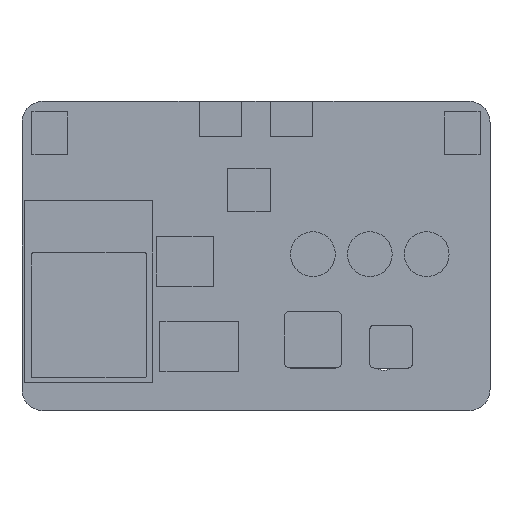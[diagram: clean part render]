
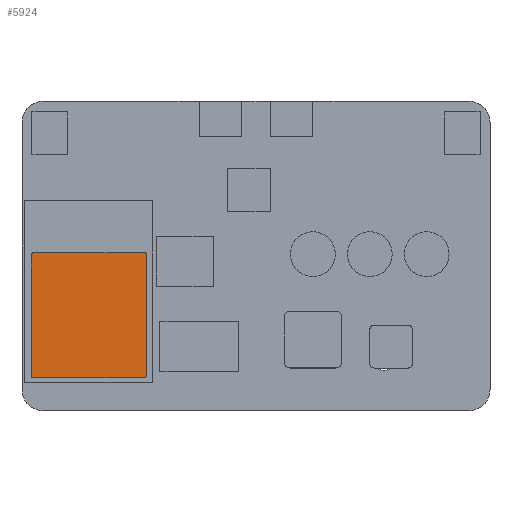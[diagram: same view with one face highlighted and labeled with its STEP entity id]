
A CAD part, top view. The second image highlights one B-rep face of the part: STEP entity #5924.
In plain terms, the highlighted planar face has unit normal (0, 0, 1).
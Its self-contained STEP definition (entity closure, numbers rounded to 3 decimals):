
#5219 = CYLINDRICAL_SURFACE('',#5220,0.3);
#5220 = AXIS2_PLACEMENT_3D('',#5221,#5222,#5223);
#5221 = CARTESIAN_POINT('',(-31.3,-29.1,63.9));
#5222 = DIRECTION('',(0.,0.,1.));
#5223 = DIRECTION('',(-1.,-0.,0.));
#5247 = PLANE('',#5248);
#5248 = AXIS2_PLACEMENT_3D('',#5249,#5250,#5251);
#5249 = CARTESIAN_POINT('',(-31.6,-29.4,63.9));
#5250 = DIRECTION('',(1.,0.,-0.));
#5251 = DIRECTION('',(0.,0.,1.));
#5280 = CYLINDRICAL_SURFACE('',#5281,0.3);
#5281 = AXIS2_PLACEMENT_3D('',#5282,#5283,#5284);
#5282 = CARTESIAN_POINT('',(-31.3,-12.1,63.9));
#5283 = DIRECTION('',(0.,0.,1.));
#5284 = DIRECTION('',(-1.,-0.,0.));
#5308 = PLANE('',#5309);
#5309 = AXIS2_PLACEMENT_3D('',#5310,#5311,#5312);
#5310 = CARTESIAN_POINT('',(-31.6,-11.8,63.9));
#5311 = DIRECTION('',(-0.,1.,0.));
#5312 = DIRECTION('',(0.,0.,1.));
#5337 = CYLINDRICAL_SURFACE('',#5338,0.3);
#5338 = AXIS2_PLACEMENT_3D('',#5339,#5340,#5341);
#5339 = CARTESIAN_POINT('',(-15.7,-12.1,63.9));
#5340 = DIRECTION('',(0.,0.,1.));
#5341 = DIRECTION('',(1.,0.,-0.));
#5365 = PLANE('',#5366);
#5366 = AXIS2_PLACEMENT_3D('',#5367,#5368,#5369);
#5367 = CARTESIAN_POINT('',(-15.4,-29.4,63.9));
#5368 = DIRECTION('',(1.,0.,-0.));
#5369 = DIRECTION('',(0.,0.,1.));
#5398 = CYLINDRICAL_SURFACE('',#5399,0.3);
#5399 = AXIS2_PLACEMENT_3D('',#5400,#5401,#5402);
#5400 = CARTESIAN_POINT('',(-15.7,-29.1,63.9));
#5401 = DIRECTION('',(0.,0.,1.));
#5402 = DIRECTION('',(1.,0.,-0.));
#5424 = PLANE('',#5425);
#5425 = AXIS2_PLACEMENT_3D('',#5426,#5427,#5428);
#5426 = CARTESIAN_POINT('',(-31.6,-29.4,63.9));
#5427 = DIRECTION('',(-0.,1.,0.));
#5428 = DIRECTION('',(0.,0.,1.));
#5521 = VERTEX_POINT('',#5522);
#5522 = CARTESIAN_POINT('',(-31.3,-29.4,66.2));
#5543 = EDGE_CURVE('',#5544,#5521,#5546,.T.);
#5544 = VERTEX_POINT('',#5545);
#5545 = CARTESIAN_POINT('',(-31.6,-29.1,66.2));
#5546 = SURFACE_CURVE('',#5547,(#5552,#5559),.PCURVE_S1.);
#5547 = CIRCLE('',#5548,0.3);
#5548 = AXIS2_PLACEMENT_3D('',#5549,#5550,#5551);
#5549 = CARTESIAN_POINT('',(-31.3,-29.1,66.2));
#5550 = DIRECTION('',(0.,0.,1.));
#5551 = DIRECTION('',(0.,-1.,0.));
#5552 = PCURVE('',#5219,#5553);
#5553 = DEFINITIONAL_REPRESENTATION('',(#5554),#5558);
#5554 = LINE('',#5555,#5556);
#5555 = CARTESIAN_POINT('',(-4.712,2.3));
#5556 = VECTOR('',#5557,1.);
#5557 = DIRECTION('',(1.,0.));
#5558 = ( GEOMETRIC_REPRESENTATION_CONTEXT(2) 
PARAMETRIC_REPRESENTATION_CONTEXT() REPRESENTATION_CONTEXT('2D SPACE',''
  ) );
#5559 = PCURVE('',#5560,#5565);
#5560 = PLANE('',#5561);
#5561 = AXIS2_PLACEMENT_3D('',#5562,#5563,#5564);
#5562 = CARTESIAN_POINT('',(-31.6,-29.4,66.2));
#5563 = DIRECTION('',(0.,0.,1.));
#5564 = DIRECTION('',(1.,0.,-0.));
#5565 = DEFINITIONAL_REPRESENTATION('',(#5566),#5570);
#5566 = CIRCLE('',#5567,0.3);
#5567 = AXIS2_PLACEMENT_2D('',#5568,#5569);
#5568 = CARTESIAN_POINT('',(0.3,0.3));
#5569 = DIRECTION('',(0.,-1.));
#5570 = ( GEOMETRIC_REPRESENTATION_CONTEXT(2) 
PARAMETRIC_REPRESENTATION_CONTEXT() REPRESENTATION_CONTEXT('2D SPACE',''
  ) );
#5598 = EDGE_CURVE('',#5521,#5599,#5601,.T.);
#5599 = VERTEX_POINT('',#5600);
#5600 = CARTESIAN_POINT('',(-15.7,-29.4,66.2));
#5601 = SURFACE_CURVE('',#5602,(#5606,#5613),.PCURVE_S1.);
#5602 = LINE('',#5603,#5604);
#5603 = CARTESIAN_POINT('',(-31.6,-29.4,66.2));
#5604 = VECTOR('',#5605,1.);
#5605 = DIRECTION('',(1.,0.,-0.));
#5606 = PCURVE('',#5424,#5607);
#5607 = DEFINITIONAL_REPRESENTATION('',(#5608),#5612);
#5608 = LINE('',#5609,#5610);
#5609 = CARTESIAN_POINT('',(2.3,0.));
#5610 = VECTOR('',#5611,1.);
#5611 = DIRECTION('',(0.,1.));
#5612 = ( GEOMETRIC_REPRESENTATION_CONTEXT(2) 
PARAMETRIC_REPRESENTATION_CONTEXT() REPRESENTATION_CONTEXT('2D SPACE',''
  ) );
#5613 = PCURVE('',#5560,#5614);
#5614 = DEFINITIONAL_REPRESENTATION('',(#5615),#5619);
#5615 = LINE('',#5616,#5617);
#5616 = CARTESIAN_POINT('',(0.,0.));
#5617 = VECTOR('',#5618,1.);
#5618 = DIRECTION('',(1.,0.));
#5619 = ( GEOMETRIC_REPRESENTATION_CONTEXT(2) 
PARAMETRIC_REPRESENTATION_CONTEXT() REPRESENTATION_CONTEXT('2D SPACE',''
  ) );
#5647 = EDGE_CURVE('',#5648,#5599,#5650,.T.);
#5648 = VERTEX_POINT('',#5649);
#5649 = CARTESIAN_POINT('',(-15.4,-29.1,66.2));
#5650 = SURFACE_CURVE('',#5651,(#5656,#5663),.PCURVE_S1.);
#5651 = CIRCLE('',#5652,0.3);
#5652 = AXIS2_PLACEMENT_3D('',#5653,#5654,#5655);
#5653 = CARTESIAN_POINT('',(-15.7,-29.1,66.2));
#5654 = DIRECTION('',(-0.,-0.,-1.));
#5655 = DIRECTION('',(0.,-1.,0.));
#5656 = PCURVE('',#5398,#5657);
#5657 = DEFINITIONAL_REPRESENTATION('',(#5658),#5662);
#5658 = LINE('',#5659,#5660);
#5659 = CARTESIAN_POINT('',(4.712,2.3));
#5660 = VECTOR('',#5661,1.);
#5661 = DIRECTION('',(-1.,0.));
#5662 = ( GEOMETRIC_REPRESENTATION_CONTEXT(2) 
PARAMETRIC_REPRESENTATION_CONTEXT() REPRESENTATION_CONTEXT('2D SPACE',''
  ) );
#5663 = PCURVE('',#5560,#5664);
#5664 = DEFINITIONAL_REPRESENTATION('',(#5665),#5673);
#5665 = ( BOUNDED_CURVE() B_SPLINE_CURVE(2,(#5666,#5667,#5668,#5669,
#5670,#5671,#5672),.UNSPECIFIED.,.T.,.F.) B_SPLINE_CURVE_WITH_KNOTS((1,2
    ,2,2,2,1),(-2.094,0.,2.094,4.189,
6.283,8.378),.UNSPECIFIED.) CURVE() 
GEOMETRIC_REPRESENTATION_ITEM() RATIONAL_B_SPLINE_CURVE((1.,0.5,1.,0.5,
1.,0.5,1.)) REPRESENTATION_ITEM('') );
#5666 = CARTESIAN_POINT('',(15.9,0.));
#5667 = CARTESIAN_POINT('',(15.38,0.));
#5668 = CARTESIAN_POINT('',(15.64,0.45));
#5669 = CARTESIAN_POINT('',(15.9,0.9));
#5670 = CARTESIAN_POINT('',(16.16,0.45));
#5671 = CARTESIAN_POINT('',(16.42,0.));
#5672 = CARTESIAN_POINT('',(15.9,0.));
#5673 = ( GEOMETRIC_REPRESENTATION_CONTEXT(2) 
PARAMETRIC_REPRESENTATION_CONTEXT() REPRESENTATION_CONTEXT('2D SPACE',''
  ) );
#5699 = EDGE_CURVE('',#5648,#5700,#5702,.T.);
#5700 = VERTEX_POINT('',#5701);
#5701 = CARTESIAN_POINT('',(-15.4,-12.1,66.2));
#5702 = SURFACE_CURVE('',#5703,(#5707,#5714),.PCURVE_S1.);
#5703 = LINE('',#5704,#5705);
#5704 = CARTESIAN_POINT('',(-15.4,-29.4,66.2));
#5705 = VECTOR('',#5706,1.);
#5706 = DIRECTION('',(-0.,1.,0.));
#5707 = PCURVE('',#5365,#5708);
#5708 = DEFINITIONAL_REPRESENTATION('',(#5709),#5713);
#5709 = LINE('',#5710,#5711);
#5710 = CARTESIAN_POINT('',(2.3,0.));
#5711 = VECTOR('',#5712,1.);
#5712 = DIRECTION('',(0.,-1.));
#5713 = ( GEOMETRIC_REPRESENTATION_CONTEXT(2) 
PARAMETRIC_REPRESENTATION_CONTEXT() REPRESENTATION_CONTEXT('2D SPACE',''
  ) );
#5714 = PCURVE('',#5560,#5715);
#5715 = DEFINITIONAL_REPRESENTATION('',(#5716),#5720);
#5716 = LINE('',#5717,#5718);
#5717 = CARTESIAN_POINT('',(16.2,0.));
#5718 = VECTOR('',#5719,1.);
#5719 = DIRECTION('',(0.,1.));
#5720 = ( GEOMETRIC_REPRESENTATION_CONTEXT(2) 
PARAMETRIC_REPRESENTATION_CONTEXT() REPRESENTATION_CONTEXT('2D SPACE',''
  ) );
#5750 = VERTEX_POINT('',#5751);
#5751 = CARTESIAN_POINT('',(-15.7,-11.8,66.2));
#5772 = EDGE_CURVE('',#5700,#5750,#5773,.T.);
#5773 = SURFACE_CURVE('',#5774,(#5779,#5786),.PCURVE_S1.);
#5774 = CIRCLE('',#5775,0.3);
#5775 = AXIS2_PLACEMENT_3D('',#5776,#5777,#5778);
#5776 = CARTESIAN_POINT('',(-15.7,-12.1,66.2));
#5777 = DIRECTION('',(0.,0.,1.));
#5778 = DIRECTION('',(0.,-1.,0.));
#5779 = PCURVE('',#5337,#5780);
#5780 = DEFINITIONAL_REPRESENTATION('',(#5781),#5785);
#5781 = LINE('',#5782,#5783);
#5782 = CARTESIAN_POINT('',(-1.571,2.3));
#5783 = VECTOR('',#5784,1.);
#5784 = DIRECTION('',(1.,0.));
#5785 = ( GEOMETRIC_REPRESENTATION_CONTEXT(2) 
PARAMETRIC_REPRESENTATION_CONTEXT() REPRESENTATION_CONTEXT('2D SPACE',''
  ) );
#5786 = PCURVE('',#5560,#5787);
#5787 = DEFINITIONAL_REPRESENTATION('',(#5788),#5792);
#5788 = CIRCLE('',#5789,0.3);
#5789 = AXIS2_PLACEMENT_2D('',#5790,#5791);
#5790 = CARTESIAN_POINT('',(15.9,17.3));
#5791 = DIRECTION('',(0.,-1.));
#5792 = ( GEOMETRIC_REPRESENTATION_CONTEXT(2) 
PARAMETRIC_REPRESENTATION_CONTEXT() REPRESENTATION_CONTEXT('2D SPACE',''
  ) );
#5800 = VERTEX_POINT('',#5801);
#5801 = CARTESIAN_POINT('',(-31.3,-11.8,66.2));
#5822 = EDGE_CURVE('',#5800,#5750,#5823,.T.);
#5823 = SURFACE_CURVE('',#5824,(#5828,#5835),.PCURVE_S1.);
#5824 = LINE('',#5825,#5826);
#5825 = CARTESIAN_POINT('',(-31.6,-11.8,66.2));
#5826 = VECTOR('',#5827,1.);
#5827 = DIRECTION('',(1.,0.,-0.));
#5828 = PCURVE('',#5308,#5829);
#5829 = DEFINITIONAL_REPRESENTATION('',(#5830),#5834);
#5830 = LINE('',#5831,#5832);
#5831 = CARTESIAN_POINT('',(2.3,0.));
#5832 = VECTOR('',#5833,1.);
#5833 = DIRECTION('',(0.,1.));
#5834 = ( GEOMETRIC_REPRESENTATION_CONTEXT(2) 
PARAMETRIC_REPRESENTATION_CONTEXT() REPRESENTATION_CONTEXT('2D SPACE',''
  ) );
#5835 = PCURVE('',#5560,#5836);
#5836 = DEFINITIONAL_REPRESENTATION('',(#5837),#5841);
#5837 = LINE('',#5838,#5839);
#5838 = CARTESIAN_POINT('',(0.,17.6));
#5839 = VECTOR('',#5840,1.);
#5840 = DIRECTION('',(1.,0.));
#5841 = ( GEOMETRIC_REPRESENTATION_CONTEXT(2) 
PARAMETRIC_REPRESENTATION_CONTEXT() REPRESENTATION_CONTEXT('2D SPACE',''
  ) );
#5849 = EDGE_CURVE('',#5850,#5800,#5852,.T.);
#5850 = VERTEX_POINT('',#5851);
#5851 = CARTESIAN_POINT('',(-31.6,-12.1,66.2));
#5852 = SURFACE_CURVE('',#5853,(#5858,#5865),.PCURVE_S1.);
#5853 = CIRCLE('',#5854,0.3);
#5854 = AXIS2_PLACEMENT_3D('',#5855,#5856,#5857);
#5855 = CARTESIAN_POINT('',(-31.3,-12.1,66.2));
#5856 = DIRECTION('',(-0.,-0.,-1.));
#5857 = DIRECTION('',(0.,-1.,0.));
#5858 = PCURVE('',#5280,#5859);
#5859 = DEFINITIONAL_REPRESENTATION('',(#5860),#5864);
#5860 = LINE('',#5861,#5862);
#5861 = CARTESIAN_POINT('',(1.571,2.3));
#5862 = VECTOR('',#5863,1.);
#5863 = DIRECTION('',(-1.,0.));
#5864 = ( GEOMETRIC_REPRESENTATION_CONTEXT(2) 
PARAMETRIC_REPRESENTATION_CONTEXT() REPRESENTATION_CONTEXT('2D SPACE',''
  ) );
#5865 = PCURVE('',#5560,#5866);
#5866 = DEFINITIONAL_REPRESENTATION('',(#5867),#5875);
#5867 = ( BOUNDED_CURVE() B_SPLINE_CURVE(2,(#5868,#5869,#5870,#5871,
#5872,#5873,#5874),.UNSPECIFIED.,.T.,.F.) B_SPLINE_CURVE_WITH_KNOTS((1,2
    ,2,2,2,1),(-2.094,0.,2.094,4.189,
6.283,8.378),.UNSPECIFIED.) CURVE() 
GEOMETRIC_REPRESENTATION_ITEM() RATIONAL_B_SPLINE_CURVE((1.,0.5,1.,0.5,
1.,0.5,1.)) REPRESENTATION_ITEM('') );
#5868 = CARTESIAN_POINT('',(0.3,17.));
#5869 = CARTESIAN_POINT('',(-0.22,17.));
#5870 = CARTESIAN_POINT('',(0.04,17.45));
#5871 = CARTESIAN_POINT('',(0.3,17.9));
#5872 = CARTESIAN_POINT('',(0.56,17.45));
#5873 = CARTESIAN_POINT('',(0.82,17.));
#5874 = CARTESIAN_POINT('',(0.3,17.));
#5875 = ( GEOMETRIC_REPRESENTATION_CONTEXT(2) 
PARAMETRIC_REPRESENTATION_CONTEXT() REPRESENTATION_CONTEXT('2D SPACE',''
  ) );
#5901 = EDGE_CURVE('',#5544,#5850,#5902,.T.);
#5902 = SURFACE_CURVE('',#5903,(#5907,#5914),.PCURVE_S1.);
#5903 = LINE('',#5904,#5905);
#5904 = CARTESIAN_POINT('',(-31.6,-29.4,66.2));
#5905 = VECTOR('',#5906,1.);
#5906 = DIRECTION('',(-0.,1.,0.));
#5907 = PCURVE('',#5247,#5908);
#5908 = DEFINITIONAL_REPRESENTATION('',(#5909),#5913);
#5909 = LINE('',#5910,#5911);
#5910 = CARTESIAN_POINT('',(2.3,0.));
#5911 = VECTOR('',#5912,1.);
#5912 = DIRECTION('',(0.,-1.));
#5913 = ( GEOMETRIC_REPRESENTATION_CONTEXT(2) 
PARAMETRIC_REPRESENTATION_CONTEXT() REPRESENTATION_CONTEXT('2D SPACE',''
  ) );
#5914 = PCURVE('',#5560,#5915);
#5915 = DEFINITIONAL_REPRESENTATION('',(#5916),#5920);
#5916 = LINE('',#5917,#5918);
#5917 = CARTESIAN_POINT('',(0.,0.));
#5918 = VECTOR('',#5919,1.);
#5919 = DIRECTION('',(0.,1.));
#5920 = ( GEOMETRIC_REPRESENTATION_CONTEXT(2) 
PARAMETRIC_REPRESENTATION_CONTEXT() REPRESENTATION_CONTEXT('2D SPACE',''
  ) );
#5924 = ADVANCED_FACE('',(#5925),#5560,.T.);
#5925 = FACE_BOUND('',#5926,.T.);
#5926 = EDGE_LOOP('',(#5927,#5928,#5929,#5930,#5931,#5932,#5933,#5934));
#5927 = ORIENTED_EDGE('',*,*,#5901,.F.);
#5928 = ORIENTED_EDGE('',*,*,#5543,.T.);
#5929 = ORIENTED_EDGE('',*,*,#5598,.T.);
#5930 = ORIENTED_EDGE('',*,*,#5647,.F.);
#5931 = ORIENTED_EDGE('',*,*,#5699,.T.);
#5932 = ORIENTED_EDGE('',*,*,#5772,.T.);
#5933 = ORIENTED_EDGE('',*,*,#5822,.F.);
#5934 = ORIENTED_EDGE('',*,*,#5849,.F.);
